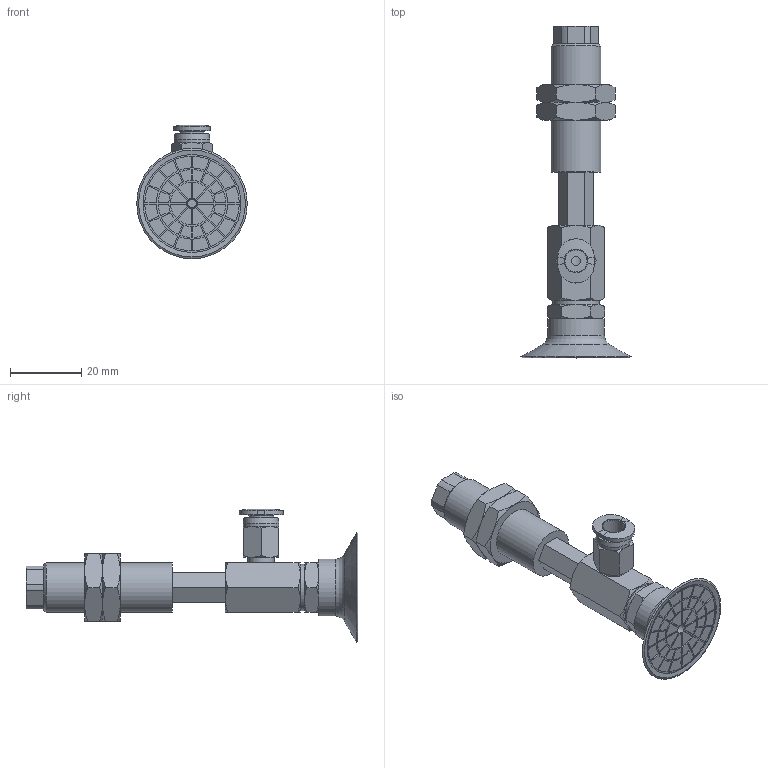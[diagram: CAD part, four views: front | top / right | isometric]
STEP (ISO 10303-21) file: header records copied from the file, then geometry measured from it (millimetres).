
FILE_DESCRIPTION(('STEP AP203'),'1');
FILE_NAME('-O.stp','2025-03-13T07:50:38',(' '),(' '),'Spatial InterOp 3D',' ',' ');
FILE_SCHEMA(('CONFIG_CONTROL_DESIGN'));
Length unit declared in the file: millimetre
Products named in the file (8): BNABPAYH-30B-15-※-O; NAPATH-30B-15--M; NAPATH-30B-15--F; Nut-25-S; CONNECTOR-30B-15-PA; TN-PA-30B-M6; PC-C_06-M5; BPAG-30B-※
Assembly tree (8 placements, depth 2):
  BNABPAYH-30B-15-※-O
    NAPATH-30B-15--M
    NAPATH-30B-15--F
    Nut-25-S  x2
    CONNECTOR-30B-15-PA
    TN-PA-30B-M6
    PC-C_06-M5
    BPAG-30B-※
Bounding box: 31.04 x 93.2 x 37.5 mm (x, y, z)
Volume: 16542.8 mm3; surface area: 13073.8 mm2
Topology: 8 solids, 8 shells, 425 faces, 973 edges, 618 vertices
Faces by surface type: plane 224, cylinder 105, cone 81, torus 8, bspline 4, revolution 3
Full cylindrical faces by diameter (mm): 2.5 x1, 3 x2, 4 x2, 4.134 x2, 4.917 x1, 5 x2, 6 x3, 7 x1, 7.4 x1, 8.2 x1, 10 x3, 12.917 x2, 13 x1, 14 x1, 16 x1, 27.5 x1
Entity records: 11958 total; most frequent: CARTESIAN_POINT 2661, DIRECTION 1867, ORIENTED_EDGE 1732, EDGE_CURVE 866, AXIS2_PLACEMENT_3D 704, VERTEX_POINT 582, EDGE_LOOP 518, LINE 456
